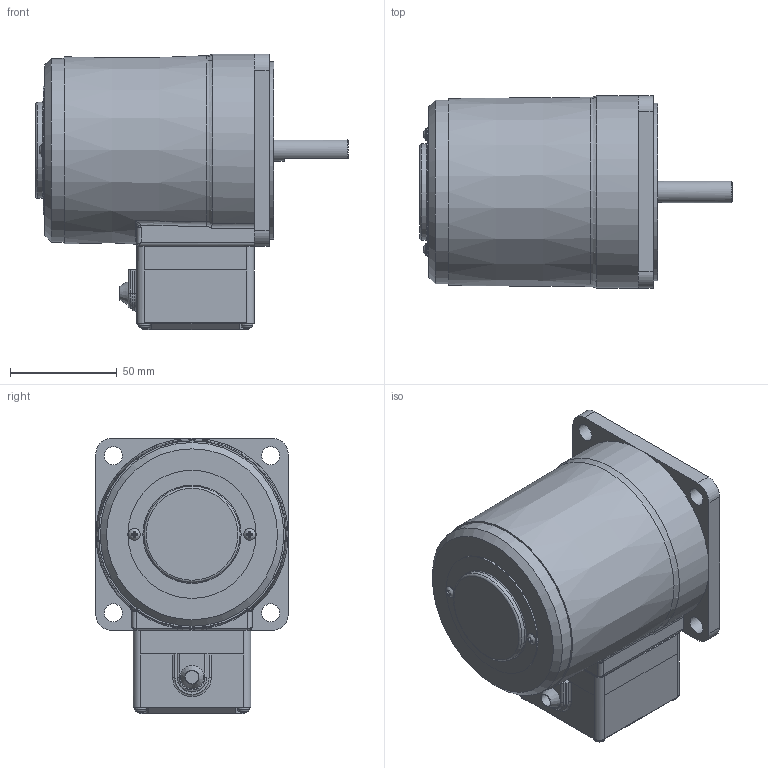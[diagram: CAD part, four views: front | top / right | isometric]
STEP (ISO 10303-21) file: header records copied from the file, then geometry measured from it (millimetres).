
FILE_DESCRIPTION(/* description */ (''),/* implementation_level */ '2;1');
FILE_NAME(/* name */ 'E:\도면작업\2016\0704) 미주향 SG 도면\3D MOTOR\TERMINAL BOX TYPE\REVERSIBLE TERMINAL BOX\SG9R40D_-T1.stp',/* time_stamp */ '2017-01-24T11:22:04+09:00',/* author */ ('jy-jung'),/* organization */ (''),/* preprocessor_version */ 'ST-DEVELOPER v15.6',/* originating_system */ 'Autodesk Inventor 2015',/* authorisation */ '');
FILE_SCHEMA (('AUTOMOTIVE_DESIGN { 1 0 10303 214 3 1 1 }'));
Length unit declared in the file: millimetre
Products named in the file (1): 부품1
Bounding box: 146.3 x 90 x 129 mm (x, y, z)
Volume: 781338.1 mm3; surface area: 62861 mm2
Topology: 1 solids, 5 shells, 309 faces, 803 edges, 516 vertices
Faces by surface type: plane 149, cylinder 60, cone 44, torus 32, bspline 20, sphere 4
Full cylindrical faces by diameter (mm): 3 x2, 3.5 x2, 5.6 x2, 8 x1, 8.5 x4, 10 x1, 40 x1, 43 x1, 45 x1, 60 x1, 83 x1, 86 x1
Entity records: 10398 total; most frequent: CARTESIAN_POINT 2981, ORIENTED_EDGE 1490, DIRECTION 1455, EDGE_CURVE 745, AXIS2_PLACEMENT_3D 560, VERTEX_POINT 503, EDGE_LOOP 378, LINE 335
